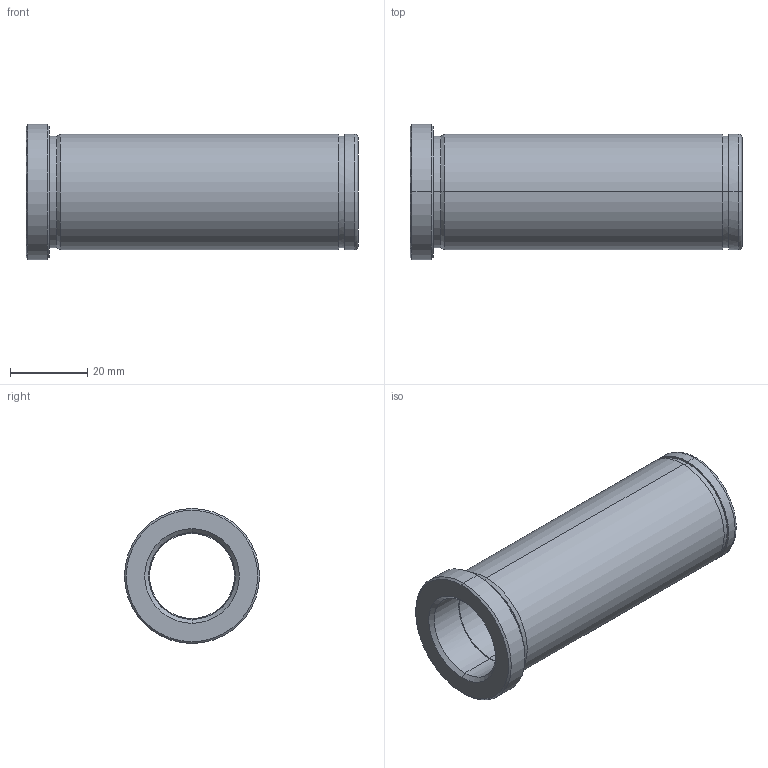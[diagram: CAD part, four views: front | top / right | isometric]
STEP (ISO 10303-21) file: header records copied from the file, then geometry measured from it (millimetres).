
FILE_DESCRIPTION(('CATIA V5 STEP Exchange'),'2;1');
FILE_NAME('C:\Users\Utente\Desktop\IO LAVORO\3D X SITO CF\X SITO\PLASTICA\553\553-22X86.stp','2021-05-25T18:07:44+00:00',('none'),('none'),'CATIA Version 5 Release 20 GA (IN-10)','CATIA V5 STEP AP203','none');
FILE_SCHEMA(('CONFIG_CONTROL_DESIGN'));
Length unit declared in the file: millimetre
Products named in the file (1): 553-22X86
Bounding box: 86 x 35 x 35 mm (x, y, z)
Volume: 29150.2 mm3; surface area: 15272.3 mm2
Topology: 1 solids, 1 shells, 32 faces, 102 edges, 76 vertices
Faces by surface type: cylinder 14, cone 8, plane 6, torus 4
Entity records: 1334 total; most frequent: CARTESIAN_POINT 389, ORIENTED_EDGE 204, DIRECTION 152, EDGE_CURVE 102, AXIS2_PLACEMENT_3D 99, VERTEX_POINT 76, CIRCLE 66, EDGE_LOOP 38
